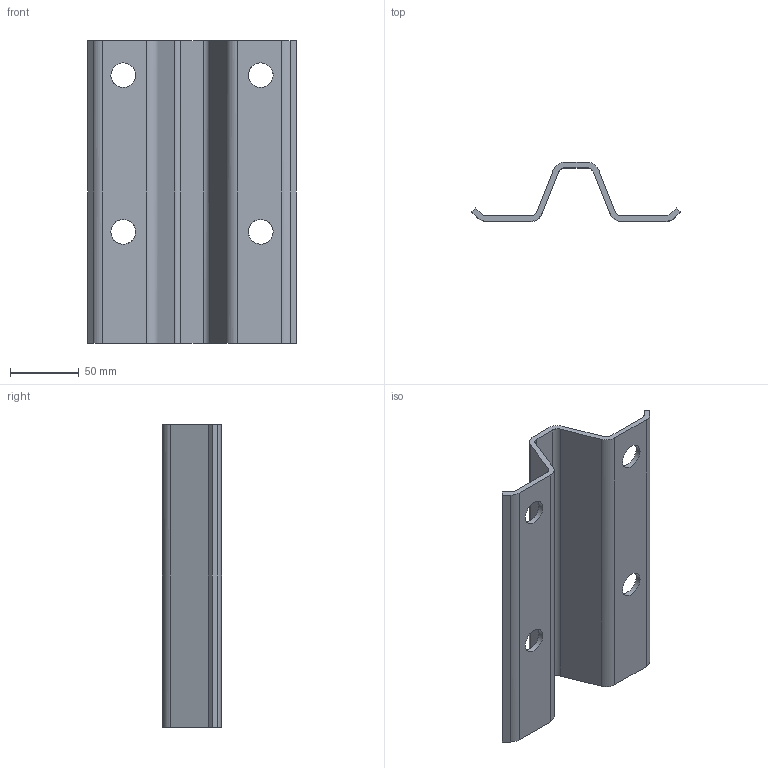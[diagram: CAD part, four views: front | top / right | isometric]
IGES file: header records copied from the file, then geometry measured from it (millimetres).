
Global section: file name: C265; native system: Autodesk RealDWG; preprocessor: Autodesk Translation Framework DWG producer (atf_dwg_producer); organization: unknown; date: 20230703.110254; units: centimetre
Bounding box: 151.72 x 43 x 220 mm (x, y, z)
Volume: 173528.7 mm3; surface area: 91047.8 mm2
Topology: 1 solids, 1 shells, 34 faces, 96 edges, 64 vertices
Faces by surface type: bspline 34
